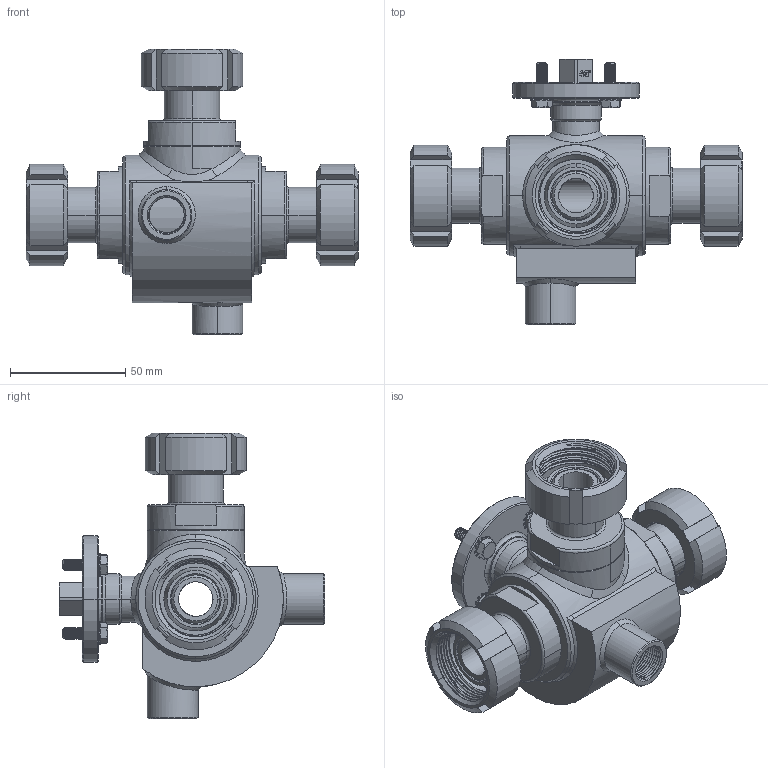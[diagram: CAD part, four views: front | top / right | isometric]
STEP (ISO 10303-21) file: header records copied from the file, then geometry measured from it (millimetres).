
FILE_DESCRIPTION((''),'2;1');
FILE_NAME('303027C6141F_SW0001','2025-01-24T16:03:57',('tecnico2'),('CDM Tecnoconsulting'),'CREO PARAMETRIC BY PTC INC, 2024063','CREO PARAMETRIC BY PTC INC, 2024063','');
FILE_SCHEMA(('CONFIG_CONTROL_DESIGN','SHAPE_APPEARANCE_LAYERS_GROUPS'));
Products named in the file (1): 303027C6141F_SW0001
Bounding box: 144 x 115.25 x 124 mm (x, y, z)
Volume: 245902.9 mm3; surface area: 100868.7 mm2
Topology: 1 solids, 1 shells, 1873 faces, 5053 edges, 3267 vertices
Faces by surface type: plane 678, cylinder 499, cone 245, bspline 180, extrusion 167, torus 102, sphere 2
Entity records: 147102 total; most frequent: CARTESIAN_POINT 87742, ORIENTED_EDGE 10082, DIRECTION 7432, PRESENTATION_STYLE_ASSIGNMENT 5118, STYLED_ITEM 5042, CURVE_STYLE 5041, EDGE_CURVE 5041, VERTEX_POINT 3267
